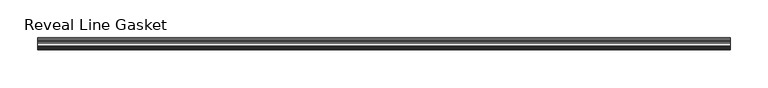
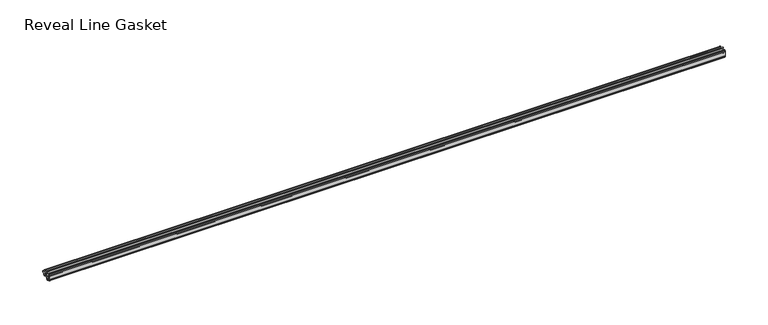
"""IFC4 building model written with IfcOpenShell, lengths in millimetres: proxy geometry, Accessories-Teknion-FHGR-AI_Healthcare-Reveal_Line_Gasket(Horizontal)-R2022 : Reveal Line Gasket."""

from ifc_helpers import new_model, si_unit, point, frame, frame_2d, origin, place, context, project, spatial, polyline, circle_curve, trimmed, segment, composite_curve, outline, extrude, source, transform, mapped, element, save


def reveal_line_gasket_ca886eab(model_context):
    return source(origin(), model_context, "Body", "SweptSolid", [
        extrude(outline(composite_curve([segment(polyline([(-7.6326998, 1603.2), (-7.4091917, 1604.1554927), (-6.8813059, 1605.0884684)]), True, "CONTINUOUS"), segment(trimmed(circle_curve(frame_2d((-6.5243141, 1604.8864793)), 0.4101739), [point((-6.8813059, 1605.0884684))], [point((-6.1246704, 1604.7941347))], False, "CARTESIAN"), True, "CONTINUOUS"), segment(polyline([(-6.1246704, 1604.7941347), (-6.3626997, 1603.0979086), (-6.3626997, 1601.0654527)]), True, "CONTINUOUS"), segment(trimmed(circle_curve(frame_2d((-5.6959605, 1601.4819258)), 0.786124), [point((-6.3626997, 1601.0654527))], [point((-5.0926996, 1600.977875))], True, "CARTESIAN"), True, "CONTINUOUS"), segment(polyline([(-5.0926996, 1600.977875), (-0.7492996, 1600.977875), (-3.7293824, 1606.1395295)]), True, "CONTINUOUS"), segment(trimmed(circle_curve(frame_2d((-3.3132479, 1606.2049761)), 0.4212495), [point((-3.7293824, 1606.1395295))], [point((-3.0485022, 1606.5326358))], False, "CARTESIAN"), True, "CONTINUOUS"), segment(polyline([(-3.0485022, 1606.5326358), (0.5742594, 1600.977875), (4.8262978, 1600.977875), (3.1660374, 1603.8535297)]), True, "CONTINUOUS"), segment(trimmed(circle_curve(frame_2d((3.5978728, 1603.9118855)), 0.4357605), [point((3.1660374, 1603.8535297))], [point((3.864328, 1604.2566881))], False, "CARTESIAN"), True, "CONTINUOUS"), segment(polyline([(3.864328, 1604.2566881), (6.1944059, 1600.977875), (7.6326998, 1600.977875), (7.6326998, 1599.422125), (6.1944059, 1599.422125), (3.864328, 1596.1433119)]), True, "CONTINUOUS"), segment(trimmed(circle_curve(frame_2d((3.5978728, 1596.4881145)), 0.4357605), [point((3.864328, 1596.1433119))], [point((3.1660374, 1596.5464703))], False, "CARTESIAN"), True, "CONTINUOUS"), segment(polyline([(3.1660374, 1596.5464703), (4.8262978, 1599.422125), (0.5742594, 1599.422125), (-3.0485022, 1593.8673642)]), True, "CONTINUOUS"), segment(trimmed(circle_curve(frame_2d((-3.3132479, 1594.1950239)), 0.4212495), [point((-3.0485022, 1593.8673642))], [point((-3.7293824, 1594.2604705))], False, "CARTESIAN"), True, "CONTINUOUS"), segment(polyline([(-3.7293824, 1594.2604705), (-0.7492996, 1599.422125), (-5.0926996, 1599.422125)]), True, "CONTINUOUS"), segment(trimmed(circle_curve(frame_2d((-5.6959605, 1598.9180742)), 0.786124), [point((-5.0926996, 1599.422125))], [point((-6.3626997, 1599.3345473))], True, "CARTESIAN"), True, "CONTINUOUS"), segment(polyline([(-6.3626997, 1599.3345473), (-6.3626997, 1597.3020914), (-6.1246704, 1595.6058653)]), True, "CONTINUOUS"), segment(trimmed(circle_curve(frame_2d((-6.5243141, 1595.5135207)), 0.4101739), [point((-6.1246704, 1595.6058653))], [point((-6.8813059, 1595.3115316))], False, "CARTESIAN"), True, "CONTINUOUS"), segment(polyline([(-6.8813059, 1595.3115316), (-7.4091917, 1596.2445073), (-7.6326998, 1597.2), (-7.6326998, 1603.2)]), True, "CONTINUOUS")], self_intersect=False)), frame((-455.3204, 0.0, 0.0), z_axis=(1.0, 0.0, 0.0), x_axis=(0.0, 1.0, 0.0)), (0.0, 0.0, 1.0), 910.6408),
    ])


if __name__ == "__main__":
    model = new_model("IFC4")
    model_context = context("Model", 3, world=origin())
    ifc_project = project(units=[si_unit("LENGTHUNIT", "METRE", prefix="MILLI")], contexts=[model_context])
    site = spatial("IfcSite", under=ifc_project)
    building = spatial("IfcBuilding", under=site)
    placement = place(None, origin())
    reveal_line_gasket_shape = reveal_line_gasket_ca886eab(model_context)
    element("IfcBuildingElementProxy", 1, Name="Accessories-Teknion-FHGR-AI_Healthcare-Reveal_Line_Gasket(Horizontal)-R2022 : Reveal Line Gasket", ObjectType="Accessories-Teknion-FHGR-AI_Healthcare-Reveal_Line_Gasket(Horizontal)-R2022 : Reveal Line Gasket", at=placement, inside=building, context=model_context, shape_type="MappedRepresentation", body=[
        mapped(reveal_line_gasket_shape, transform((0.0, 0.0, 0.0), x_axis=(1.0, 0.0, 0.0), y_axis=(0.0, 1.0, 0.0), z_axis=(0.0, 0.0, 1.0))),
    ])
    save(model, "model.ifc")
